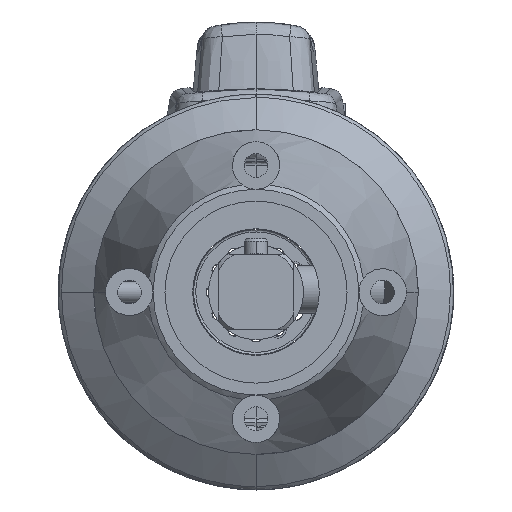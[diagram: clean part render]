
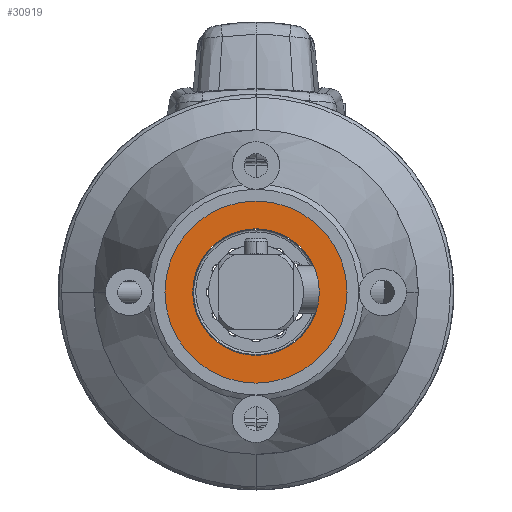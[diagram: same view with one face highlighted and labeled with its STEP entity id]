
A CAD part, left-side view. The second image highlights one B-rep face of the part: STEP entity #30919.
In plain terms, the highlighted planar face has unit normal (-1, 0, 0).
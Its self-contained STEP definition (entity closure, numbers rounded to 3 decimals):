
#3047 = EDGE_CURVE ( 'NONE', #46001, #54237, #107088, .T. ) ;
#5969 = EDGE_LOOP ( 'NONE', ( #75826, #144945 ) ) ;
#8200 = FACE_OUTER_BOUND ( 'NONE', #5969, .T. ) ;
#12564 = CARTESIAN_POINT ( 'NONE',  ( -79.817, 0., 0. ) ) ;
#20094 = EDGE_CURVE ( 'NONE', #54629, #81515, #120893, .T. ) ;
#30919 = ADVANCED_FACE ( 'NONE', ( #62643, #8200 ), #131586, .T. ) ;
#31557 = EDGE_LOOP ( 'NONE', ( #57464, #95436 ) ) ;
#31937 = DIRECTION ( 'NONE',  ( 0., 1., 0. ) ) ;
#36723 = AXIS2_PLACEMENT_3D ( 'NONE', #101263, #125477, #78528 ) ;
#42094 = EDGE_CURVE ( 'NONE', #54237, #46001, #111680, .T. ) ;
#46001 = VERTEX_POINT ( 'NONE', #74845 ) ;
#48395 = AXIS2_PLACEMENT_3D ( 'NONE', #12564, #123497, #136679 ) ;
#54237 = VERTEX_POINT ( 'NONE', #65476 ) ;
#54629 = VERTEX_POINT ( 'NONE', #132643 ) ;
#57464 = ORIENTED_EDGE ( 'NONE', *, *, #20094, .T. ) ;
#59776 = CARTESIAN_POINT ( 'NONE',  ( -79.817, 8., 0. ) ) ;
#62643 = FACE_BOUND ( 'NONE', #31557, .T. ) ;
#65476 = CARTESIAN_POINT ( 'NONE',  ( -79.817, -11.5, 0. ) ) ;
#71555 = AXIS2_PLACEMENT_3D ( 'NONE', #132549, #108357, #31937 ) ;
#74845 = CARTESIAN_POINT ( 'NONE',  ( -79.817, 11.5, 0. ) ) ;
#75826 = ORIENTED_EDGE ( 'NONE', *, *, #3047, .T. ) ;
#78528 = DIRECTION ( 'NONE',  ( 0., 1., 0. ) ) ;
#81515 = VERTEX_POINT ( 'NONE', #59776 ) ;
#85915 = CIRCLE ( 'NONE', #48395, 8. ) ;
#86799 = DIRECTION ( 'NONE',  ( 0., -1., 0. ) ) ;
#95436 = ORIENTED_EDGE ( 'NONE', *, *, #121917, .T. ) ;
#100715 = DIRECTION ( 'NONE',  ( 0., -1., 0. ) ) ;
#101263 = CARTESIAN_POINT ( 'NONE',  ( -79.817, 0., 0. ) ) ;
#107088 = CIRCLE ( 'NONE', #36723, 11.5 ) ;
#108357 = DIRECTION ( 'NONE',  ( -1., 0., 0. ) ) ;
#109576 = DIRECTION ( 'NONE',  ( 1., 0., 0. ) ) ;
#111680 = CIRCLE ( 'NONE', #71555, 11.5 ) ;
#120893 = CIRCLE ( 'NONE', #132629, 8. ) ;
#121917 = EDGE_CURVE ( 'NONE', #81515, #54629, #85915, .T. ) ;
#123497 = DIRECTION ( 'NONE',  ( 1., 0., 0. ) ) ;
#125477 = DIRECTION ( 'NONE',  ( -1., 0., 0. ) ) ;
#129327 = AXIS2_PLACEMENT_3D ( 'NONE', #130149, #130876, #86799 ) ;
#130149 = CARTESIAN_POINT ( 'NONE',  ( -79.817, 0., 0. ) ) ;
#130876 = DIRECTION ( 'NONE',  ( -1., 0., 0. ) ) ;
#131586 = PLANE ( 'NONE',  #129327 ) ;
#132549 = CARTESIAN_POINT ( 'NONE',  ( -79.817, 0., 0. ) ) ;
#132629 = AXIS2_PLACEMENT_3D ( 'NONE', #144806, #109576, #100715 ) ;
#132643 = CARTESIAN_POINT ( 'NONE',  ( -79.817, -8., 0. ) ) ;
#136679 = DIRECTION ( 'NONE',  ( 0., -1., 0. ) ) ;
#144806 = CARTESIAN_POINT ( 'NONE',  ( -79.817, 0., 0. ) ) ;
#144945 = ORIENTED_EDGE ( 'NONE', *, *, #42094, .T. ) ;
